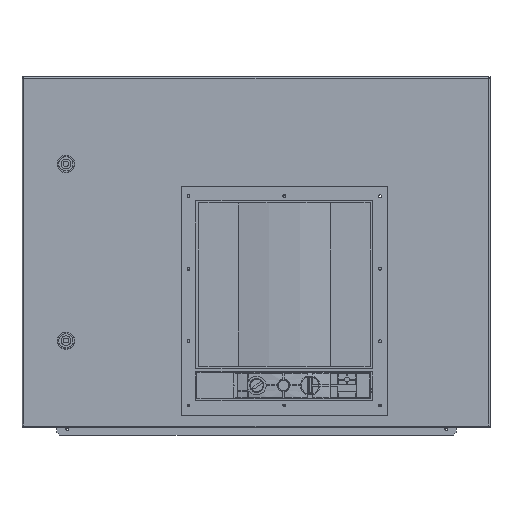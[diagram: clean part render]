
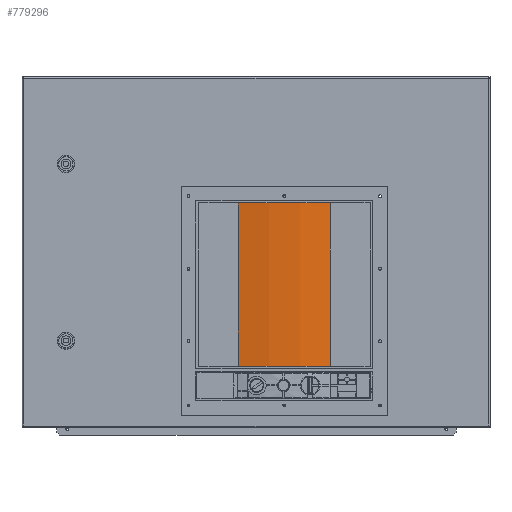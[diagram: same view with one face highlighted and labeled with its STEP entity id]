
A CAD part, top view. The second image highlights one B-rep face of the part: STEP entity #779296.
In plain terms, the highlighted cylindrical face has radius 395 mm (diameter 790 mm), a partial arc.
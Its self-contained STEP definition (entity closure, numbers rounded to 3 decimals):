
#770631=CARTESIAN_POINT(' ',(125.2,56.541,29.75));
#770632=VERTEX_POINT(' ',#770631);
#770646=CARTESIAN_POINT(' ',(47.2,51.135,-357.396));
#770651=DIRECTION(' ',(0.,-1.,0.014));
#770656=DIRECTION(' ',(0.197,0.014,0.98));
#770661=AXIS2_PLACEMENT_3D(' ',#770646,#770651,#770656);
#770666=CIRCLE('',#770661,394.962);
#770671=CARTESIAN_POINT(' ',(-30.8,56.541,29.75));
#770672=VERTEX_POINT(' ',#770671);
#770676=EDGE_CURVE(' ',#770632,#770672,#770666,.T.);
#778961=CARTESIAN_POINT(' ',(-30.8,333.859,29.75));
#778962=VERTEX_POINT(' ',#778961);
#778976=CARTESIAN_POINT(' ',(47.2,339.265,-357.396));
#778981=DIRECTION(' ',(0.,1.,0.014));
#778986=DIRECTION(' ',(-0.197,-0.014,0.98));
#778991=AXIS2_PLACEMENT_3D(' ',#778976,#778981,#778986);
#778996=CIRCLE('',#778991,394.962);
#779001=CARTESIAN_POINT(' ',(125.2,333.859,29.75));
#779002=VERTEX_POINT(' ',#779001);
#779006=EDGE_CURVE(' ',#778962,#779002,#778996,.T.);
#779086=CARTESIAN_POINT(' ',(125.2,56.541,29.75));
#779091=DIRECTION(' ',(0.,1.,0.));
#779096=VECTOR(' ',#779091,1.);
#779101=LINE('',#779086,#779096);
#779106=EDGE_CURVE(' ',#770632,#779002,#779101,.T.);
#779146=CARTESIAN_POINT(' ',(47.2,-101.394,-357.472));
#779151=DIRECTION(' ',(0.,1.,0.));
#779156=DIRECTION(' ',(-0.197,0.,0.98));
#779161=AXIS2_PLACEMENT_3D(' ',#779146,#779151,#779156);
#779166=CYLINDRICAL_SURFACE(' ',#779161,395.);
#779171=CARTESIAN_POINT(' ',(-30.8,56.541,29.75));
#779176=DIRECTION(' ',(0.,1.,0.));
#779181=VECTOR(' ',#779176,1.);
#779186=LINE('',#779171,#779181);
#779191=CARTESIAN_POINT(' ',(-30.8,125.05,29.75));
#779192=VERTEX_POINT(' ',#779191);
#779196=EDGE_CURVE(' ',#770672,#779192,#779186,.T.);
#779201=ORIENTED_EDGE(' ',*,*,#779196,.F.);
#779206=ORIENTED_EDGE(' ',*,*,#770676,.F.);
#779211=ORIENTED_EDGE(' ',*,*,#779106,.T.);
#779216=ORIENTED_EDGE(' ',*,*,#779006,.F.);
#779221=CARTESIAN_POINT(' ',(-30.8,321.15,29.75));
#779226=DIRECTION(' ',(0.,1.,0.));
#779231=VECTOR(' ',#779226,1.);
#779236=LINE('',#779221,#779231);
#779241=CARTESIAN_POINT(' ',(-30.8,321.15,29.75));
#779242=VERTEX_POINT(' ',#779241);
#779246=EDGE_CURVE(' ',#779242,#778962,#779236,.T.);
#779251=ORIENTED_EDGE(' ',*,*,#779246,.F.);
#779256=CARTESIAN_POINT(' ',(-30.8,321.15,29.75));
#779261=DIRECTION(' ',(0.,-1.,0.));
#779266=VECTOR(' ',#779261,1.);
#779271=LINE('',#779256,#779266);
#779276=EDGE_CURVE(' ',#779242,#779192,#779271,.T.);
#779281=ORIENTED_EDGE(' ',*,*,#779276,.T.);
#779286=EDGE_LOOP(' ',(#779201,#779206,#779211,#779216,#779251,#779281));
#779291=FACE_OUTER_BOUND(' ',#779286,.T.);
#779296=ADVANCED_FACE('NONE',(#779291),#779166,.T.);
